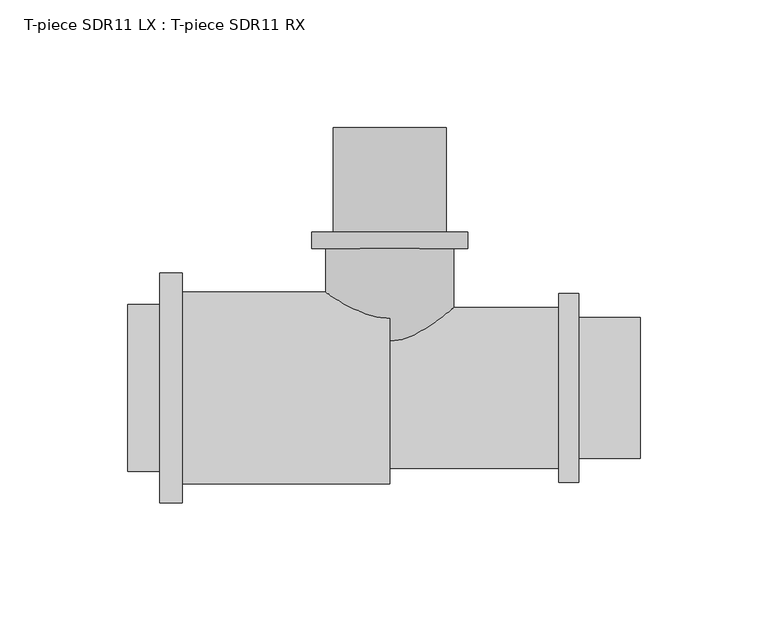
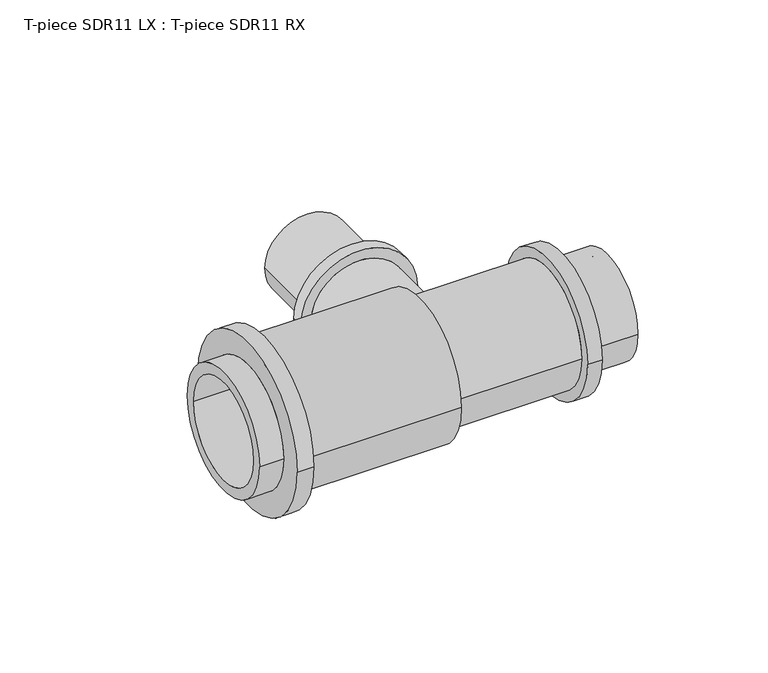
"""IFC4 building model written with IfcOpenShell, lengths in millimetres: pipe fitting geometry, T-piece SDR11 LX : T-piece SDR11 RX."""

from ifc_helpers import new_model, si_unit, point, frame, origin, place, context, project, spatial, polyline, circle_curve, ellipse_curve, trimmed, source, transform, mapped, element, save
from ifc_brep_helpers import plane_surface, cylinder_surface, revolved_surface, advanced_brep


def t_piece_sdr11_lx_t_piece_sdr11_rx_c902879b(model_context):
    return source(origin(), model_context, "Body", "AdvancedBrep", [
        advanced_brep(
        [(25.0, 2.0242854, 0.0), (-25.0, 2.0242854, 0.0), (-25.0, 54.6, 0.0), (25.0, 54.6, 0.0), (16.75, 101.7, 0.0), (-16.75, 101.7, 0.0), (-16.75, 0.0, 0.0), (16.75, 0.0, 0.0), (22.1, 60.9, 0.0), (-22.1, 60.9, 0.0), (-22.1, 101.7, 0.0), (22.1, 101.7, 0.0), (30.45, 54.6, 0.0), (-30.45, 54.6, 0.0), (-30.45, 60.9, 0.0), (30.45, 60.9, 0.0)],
        [
            (0, 1, circle_curve(frame((0.0, 2.0242854, 0.0), z_axis=(0.0, 1.0, 0.0), x_axis=(-1.0, 0.0, 0.0)), 25.0)),
            (1, 2),
            (2, 3, circle_curve(frame((0.0, 54.6, 0.0), z_axis=(0.0, -1.0, 0.0), x_axis=(-1.0, 0.0, 0.0)), 25.0)),
            (3, 0),
            (4, 5, circle_curve(frame((0.0, 101.7, 0.0), z_axis=(0.0, 1.0, 0.0), x_axis=(-1.0, 0.0, 0.0)), 16.75)),
            (5, 6),
            (6, 7, circle_curve(frame((0.0, 0.0, 0.0), z_axis=(0.0, -1.0, 0.0), x_axis=(-1.0, 0.0, 0.0)), 16.75)),
            (7, 4),
            (8, 9, circle_curve(frame((0.0, 60.9, 0.0), z_axis=(0.0, 1.0, 0.0), x_axis=(-1.0, 0.0, 0.0)), 22.1)),
            (9, 10),
            (10, 11, circle_curve(frame((0.0, 101.7, 0.0), z_axis=(0.0, -1.0, 0.0), x_axis=(-1.0, 0.0, 0.0)), 22.1)),
            (11, 8),
            (12, 13, circle_curve(frame((0.0, 54.6, 0.0), z_axis=(0.0, 1.0, 0.0), x_axis=(-1.0, 0.0, 0.0)), 30.45)),
            (13, 14),
            (14, 15, circle_curve(frame((0.0, 60.9, 0.0), z_axis=(0.0, -1.0, 0.0), x_axis=(-1.0, 0.0, 0.0)), 30.45)),
            (15, 12),
            (12, 13, circle_curve(frame((0.0, 54.6, 0.0), z_axis=(0.0, -1.0, 0.0), x_axis=(1.0, 0.0, 0.0)), 30.45)),
            (2, 3, circle_curve(frame((0.0, 54.6, 0.0), z_axis=(0.0, 1.0, 0.0), x_axis=(1.0, 0.0, 0.0)), 25.0)),
            (1, 0, circle_curve(frame((0.0, 2.0242854, 0.0), z_axis=(0.0, 1.0, 0.0), x_axis=(1.0, 0.0, 0.0)), 25.0)),
            (5, 4, circle_curve(frame((0.0, 101.7, 0.0), z_axis=(0.0, 1.0, 0.0), x_axis=(1.0, 0.0, 0.0)), 16.75)),
            (7, 6, circle_curve(frame((0.0, 0.0, 0.0), z_axis=(0.0, -1.0, 0.0), x_axis=(1.0, 0.0, 0.0)), 16.75)),
            (10, 11, circle_curve(frame((0.0, 101.7, 0.0), z_axis=(0.0, 1.0, 0.0), x_axis=(1.0, 0.0, 0.0)), 22.1)),
            (9, 8, circle_curve(frame((0.0, 60.9, 0.0), z_axis=(0.0, 1.0, 0.0), x_axis=(1.0, 0.0, 0.0)), 22.1)),
            (14, 15, circle_curve(frame((0.0, 60.9, 0.0), z_axis=(0.0, 1.0, 0.0), x_axis=(1.0, 0.0, 0.0)), 30.45)),
            (6, 1, circle_curve(frame((-11.9962802, 37.197475, 0.0), z_axis=(0.0, 0.0, -1.0), x_axis=(0.0, -1.0, 0.0)), 37.5)),
            (0, 7, circle_curve(frame((11.9962802, 37.197475, 0.0), z_axis=(0.0, 0.0, -1.0), x_axis=(0.0, -1.0, 0.0)), 37.5)),
        ],
        [
            cylinder_surface(frame((0.0, 0.0, 0.0), z_axis=(0.0, -1.0, 0.0), x_axis=(-1.0, 0.0, 0.0)), 25.0),
            revolved_surface(polyline([(-16.75, 0.0, 0.0), (-16.75, 101.7, 0.0)]), (0.0, 0.0, 0.0), (0.0, -1.0, 0.0)),
            cylinder_surface(frame((0.0, 0.0, 0.0), z_axis=(0.0, -1.0, 0.0), x_axis=(-1.0, 0.0, 0.0)), 22.1),
            cylinder_surface(frame((0.0, 0.0, 0.0), z_axis=(0.0, -1.0, 0.0), x_axis=(-1.0, 0.0, 0.0)), 30.45),
            plane_surface(frame((0.0, 54.6, 0.0), z_axis=(0.0, -1.0, 0.0), x_axis=(1.0, 0.0, 0.0))),
            cylinder_surface(frame((0.0, 0.0, 0.0), z_axis=(0.0, -1.0, 0.0), x_axis=(1.0, 0.0, 0.0)), 25.0),
            revolved_surface(polyline([(16.75, 0.0, 0.0), (16.75, 101.7, 0.0)]), (0.0, 0.0, 0.0), (0.0, -1.0, 0.0)),
            plane_surface(frame((0.0, 101.7, 0.0), z_axis=(0.0, 1.0, 0.0), x_axis=(1.0, 0.0, 0.0))),
            cylinder_surface(frame((0.0, 0.0, 0.0), z_axis=(0.0, -1.0, 0.0), x_axis=(1.0, 0.0, 0.0)), 22.1),
            plane_surface(frame((0.0, 60.9, 0.0), z_axis=(0.0, 1.0, 0.0), x_axis=(1.0, 0.0, 0.0))),
            cylinder_surface(frame((0.0, 0.0, 0.0), z_axis=(0.0, -1.0, 0.0), x_axis=(1.0, 0.0, 0.0)), 30.45),
            revolved_surface(trimmed(ellipse_curve(frame((-11.9962802, 37.197475, 0.0), z_axis=(0.0, 0.0, 1.0), x_axis=(0.0, -1.0, 0.0)), 37.5, 37.5), [point((-25.0, 2.0242854, 0.0))], [point((-16.75, 0.0, 0.0))], True, "CARTESIAN"), (0.0, 0.0, 0.0), (0.0, -1.0, 0.0)),
            revolved_surface(trimmed(ellipse_curve(frame((11.9962802, 37.197475, 0.0), z_axis=(0.0, 0.0, -1.0), x_axis=(0.0, -1.0, 0.0)), 37.5, 37.5), [point((25.0, 2.0242854, 0.0))], [point((16.75, 0.0, 0.0))], True, "CARTESIAN"), (0.0, 0.0, 0.0), (0.0, -1.0, 0.0)),
        ],
        [
            (0, [[1, 2, 3, 4]]),
            (1, [[5, 6, 7, 8]]),
            (2, [[9, 10, 11, 12]]),
            (3, [[13, 14, 15, 16]]),
            (4, [[17, -13], [18, -3]]),
            (5, [[19, -4, -18, -2]]),
            (6, [[20, -8, 21, -6]]),
            (7, [[22, -11], [-20, -5]]),
            (8, [[23, -12, -22, -10]]),
            (9, [[24, -15], [-23, -9]]),
            (10, [[-17, -16, -24, -14]]),
            (11, [[-7, 25, -1, 26]]),
            (12, [[-21, -26, -19, -25]]),
        ],
    ),
        advanced_brep(
        [(66.1, 31.5, 0.0), (66.1, -31.5, 0.0), (0.0, -31.5, 0.0), (0.0, 31.5, 0.0), (0.0, 22.4, 0.0), (0.0, -22.4, 0.0), (97.8, -22.4, 0.0), (97.8, 22.4, 0.0), (97.8, 27.5, 0.0), (97.8, -27.5, 0.0), (73.8, -27.5, 0.0), (73.8, 27.5, 0.0), (73.8, 36.9, 0.0), (73.8, -36.9, 0.0), (66.1, -36.9, 0.0), (66.1, 36.9, 0.0)],
        [
            (0, 1, circle_curve(frame((66.1, 0.0, 0.0), z_axis=(-1.0, 0.0, 0.0), x_axis=(0.0, -1.0, 0.0)), 31.5)),
            (1, 2),
            (2, 3, circle_curve(frame((0.0, 0.0, 0.0), z_axis=(1.0, 0.0, 0.0), x_axis=(0.0, -1.0, 0.0)), 31.5)),
            (3, 0),
            (4, 5, circle_curve(frame((0.0, 0.0, 0.0), z_axis=(-1.0, 0.0, 0.0), x_axis=(0.0, -1.0, 0.0)), 22.4)),
            (5, 6),
            (6, 7, circle_curve(frame((97.8, 0.0, 0.0), z_axis=(1.0, 0.0, 0.0), x_axis=(0.0, -1.0, 0.0)), 22.4)),
            (7, 4),
            (8, 9, circle_curve(frame((97.8, 0.0, 0.0), z_axis=(-1.0, 0.0, 0.0), x_axis=(0.0, -1.0, 0.0)), 27.5)),
            (9, 10),
            (10, 11, circle_curve(frame((73.8, 0.0, 0.0), z_axis=(1.0, 0.0, 0.0), x_axis=(0.0, -1.0, 0.0)), 27.5)),
            (11, 8),
            (12, 13, circle_curve(frame((73.8, 0.0, 0.0), z_axis=(-1.0, 0.0, 0.0), x_axis=(0.0, -1.0, 0.0)), 36.9)),
            (13, 14),
            (14, 15, circle_curve(frame((66.1, 0.0, 0.0), z_axis=(1.0, 0.0, 0.0), x_axis=(0.0, -1.0, 0.0)), 36.9)),
            (15, 12),
            (14, 15, circle_curve(frame((66.1, 0.0, 0.0), z_axis=(-1.0, 0.0, 0.0), x_axis=(0.0, 1.0, 0.0)), 36.9)),
            (0, 1, circle_curve(frame((66.1, 0.0, 0.0), z_axis=(1.0, 0.0, 0.0), x_axis=(0.0, 1.0, 0.0)), 31.5)),
            (3, 2, circle_curve(frame((0.0, 0.0, 0.0), z_axis=(1.0, 0.0, 0.0), x_axis=(0.0, 1.0, 0.0)), 31.5)),
            (4, 5, circle_curve(frame((0.0, 0.0, 0.0), z_axis=(1.0, 0.0, 0.0), x_axis=(0.0, 1.0, 0.0)), 22.4)),
            (7, 6, circle_curve(frame((97.8, 0.0, 0.0), z_axis=(1.0, 0.0, 0.0), x_axis=(0.0, 1.0, 0.0)), 22.4)),
            (8, 9, circle_curve(frame((97.8, 0.0, 0.0), z_axis=(1.0, 0.0, 0.0), x_axis=(0.0, 1.0, 0.0)), 27.5)),
            (11, 10, circle_curve(frame((73.8, 0.0, 0.0), z_axis=(1.0, 0.0, 0.0), x_axis=(0.0, 1.0, 0.0)), 27.5)),
            (12, 13, circle_curve(frame((73.8, 0.0, 0.0), z_axis=(1.0, 0.0, 0.0), x_axis=(0.0, 1.0, 0.0)), 36.9)),
        ],
        [
            cylinder_surface(frame((0.0, 0.0, 0.0), z_axis=(1.0, 0.0, 0.0), x_axis=(0.0, -1.0, 0.0)), 31.5),
            revolved_surface(polyline([(97.8, -22.4, 0.0), (0.0, -22.4, 0.0)]), (0.0, 0.0, 0.0), (1.0, 0.0, 0.0)),
            cylinder_surface(frame((0.0, 0.0, 0.0), z_axis=(1.0, 0.0, 0.0), x_axis=(0.0, -1.0, 0.0)), 27.5),
            cylinder_surface(frame((0.0, 0.0, 0.0), z_axis=(1.0, 0.0, 0.0), x_axis=(0.0, -1.0, 0.0)), 36.9),
            plane_surface(frame((66.1, 0.0, 0.0), z_axis=(-1.0, 0.0, 0.0), x_axis=(0.0, 1.0, 0.0))),
            cylinder_surface(frame((0.0, 0.0, 0.0), z_axis=(1.0, 0.0, 0.0), x_axis=(0.0, 1.0, 0.0)), 31.5),
            plane_surface(frame((0.0, 0.0, 0.0), z_axis=(-1.0, 0.0, 0.0), x_axis=(0.0, 1.0, 0.0))),
            revolved_surface(polyline([(97.8, 22.4, 0.0), (0.0, 22.4, 0.0)]), (0.0, 0.0, 0.0), (1.0, 0.0, 0.0)),
            plane_surface(frame((97.8, 0.0, 0.0), z_axis=(1.0, 0.0, 0.0), x_axis=(0.0, 1.0, 0.0))),
            cylinder_surface(frame((0.0, 0.0, 0.0), z_axis=(1.0, 0.0, 0.0), x_axis=(0.0, 1.0, 0.0)), 27.5),
            plane_surface(frame((73.8, 0.0, 0.0), z_axis=(1.0, 0.0, 0.0), x_axis=(0.0, 1.0, 0.0))),
            cylinder_surface(frame((0.0, 0.0, 0.0), z_axis=(1.0, 0.0, 0.0), x_axis=(0.0, 1.0, 0.0)), 36.9),
        ],
        [
            (0, [[1, 2, 3, 4]]),
            (1, [[5, 6, 7, 8]]),
            (2, [[9, 10, 11, 12]]),
            (3, [[13, 14, 15, 16]]),
            (4, [[17, -15], [18, -1]]),
            (5, [[-18, -4, 19, -2]]),
            (6, [[-19, -3], [20, -5]]),
            (7, [[-20, -8, 21, -6]]),
            (8, [[22, -9], [-21, -7]]),
            (9, [[-22, -12, 23, -10]]),
            (10, [[24, -13], [-23, -11]]),
            (11, [[-24, -16, -17, -14]]),
        ],
    ),
        advanced_brep(
        [(0.0, 37.5, 0.0), (0.0, -37.5, 0.0), (-81.1, -37.5, 0.0), (-81.1, 37.5, 0.0), (-102.3, 26.95, 0.0), (-102.3, -26.95, 0.0), (0.0, -26.95, 0.0), (0.0, 26.95, 0.0), (-89.8, 32.6, 0.0), (-89.8, -32.6, 0.0), (-102.3, -32.6, 0.0), (-102.3, 32.6, 0.0), (-81.1, 44.9, 0.0), (-81.1, -44.9, 0.0), (-89.8, -44.9, 0.0), (-89.8, 44.9, 0.0)],
        [
            (0, 1, circle_curve(frame((0.0, 0.0, 0.0), z_axis=(-1.0, 0.0, 0.0), x_axis=(0.0, -1.0, 0.0)), 37.5)),
            (1, 2),
            (2, 3, circle_curve(frame((-81.1, 0.0, 0.0), z_axis=(1.0, 0.0, 0.0), x_axis=(0.0, -1.0, 0.0)), 37.5)),
            (3, 0),
            (4, 5, circle_curve(frame((-102.3, 0.0, 0.0), z_axis=(-1.0, 0.0, 0.0), x_axis=(0.0, -1.0, 0.0)), 26.95)),
            (5, 6),
            (6, 7, circle_curve(frame((0.0, 0.0, 0.0), z_axis=(1.0, 0.0, 0.0), x_axis=(0.0, -1.0, 0.0)), 26.95)),
            (7, 4),
            (8, 9, circle_curve(frame((-89.8, 0.0, 0.0), z_axis=(-1.0, 0.0, 0.0), x_axis=(0.0, -1.0, 0.0)), 32.6)),
            (9, 10),
            (10, 11, circle_curve(frame((-102.3, 0.0, 0.0), z_axis=(1.0, 0.0, 0.0), x_axis=(0.0, -1.0, 0.0)), 32.6)),
            (11, 8),
            (12, 13, circle_curve(frame((-81.1, 0.0, 0.0), z_axis=(-1.0, 0.0, 0.0), x_axis=(0.0, -1.0, 0.0)), 44.9)),
            (13, 14),
            (14, 15, circle_curve(frame((-89.8, 0.0, 0.0), z_axis=(1.0, 0.0, 0.0), x_axis=(0.0, -1.0, 0.0)), 44.9)),
            (15, 12),
            (12, 13, circle_curve(frame((-81.1, 0.0, 0.0), z_axis=(1.0, 0.0, 0.0), x_axis=(0.0, 1.0, 0.0)), 44.9)),
            (2, 3, circle_curve(frame((-81.1, 0.0, 0.0), z_axis=(-1.0, 0.0, 0.0), x_axis=(0.0, 1.0, 0.0)), 37.5)),
            (1, 0, circle_curve(frame((0.0, 0.0, 0.0), z_axis=(-1.0, 0.0, 0.0), x_axis=(0.0, 1.0, 0.0)), 37.5)),
            (6, 7, circle_curve(frame((0.0, 0.0, 0.0), z_axis=(-1.0, 0.0, 0.0), x_axis=(0.0, 1.0, 0.0)), 26.95)),
            (5, 4, circle_curve(frame((-102.3, 0.0, 0.0), z_axis=(-1.0, 0.0, 0.0), x_axis=(0.0, 1.0, 0.0)), 26.95)),
            (10, 11, circle_curve(frame((-102.3, 0.0, 0.0), z_axis=(-1.0, 0.0, 0.0), x_axis=(0.0, 1.0, 0.0)), 32.6)),
            (9, 8, circle_curve(frame((-89.8, 0.0, 0.0), z_axis=(-1.0, 0.0, 0.0), x_axis=(0.0, 1.0, 0.0)), 32.6)),
            (14, 15, circle_curve(frame((-89.8, 0.0, 0.0), z_axis=(-1.0, 0.0, 0.0), x_axis=(0.0, 1.0, 0.0)), 44.9)),
        ],
        [
            cylinder_surface(frame((0.0, 0.0, 0.0), z_axis=(1.0, 0.0, 0.0), x_axis=(0.0, -1.0, 0.0)), 37.5),
            revolved_surface(polyline([(0.0, -26.95, 0.0), (-102.3, -26.95, 0.0)]), (0.0, 0.0, 0.0), (1.0, 0.0, 0.0)),
            cylinder_surface(frame((0.0, 0.0, 0.0), z_axis=(1.0, 0.0, 0.0), x_axis=(0.0, -1.0, 0.0)), 32.6),
            cylinder_surface(frame((0.0, 0.0, 0.0), z_axis=(1.0, 0.0, 0.0), x_axis=(0.0, -1.0, 0.0)), 44.9),
            plane_surface(frame((-81.1, 0.0, 0.0), z_axis=(1.0, 0.0, 0.0), x_axis=(0.0, 1.0, 0.0))),
            cylinder_surface(frame((0.0, 0.0, 0.0), z_axis=(1.0, 0.0, 0.0), x_axis=(0.0, 1.0, 0.0)), 37.5),
            plane_surface(frame((0.0, 0.0, 0.0), z_axis=(1.0, 0.0, 0.0), x_axis=(0.0, 1.0, 0.0))),
            revolved_surface(polyline([(0.0, 26.95, 0.0), (-102.3, 26.95, 0.0)]), (0.0, 0.0, 0.0), (1.0, 0.0, 0.0)),
            plane_surface(frame((-102.3, 0.0, 0.0), z_axis=(-1.0, 0.0, 0.0), x_axis=(0.0, 1.0, 0.0))),
            cylinder_surface(frame((0.0, 0.0, 0.0), z_axis=(1.0, 0.0, 0.0), x_axis=(0.0, 1.0, 0.0)), 32.6),
            plane_surface(frame((-89.8, 0.0, 0.0), z_axis=(-1.0, 0.0, 0.0), x_axis=(0.0, 1.0, 0.0))),
            cylinder_surface(frame((0.0, 0.0, 0.0), z_axis=(1.0, 0.0, 0.0), x_axis=(0.0, 1.0, 0.0)), 44.9),
        ],
        [
            (0, [[1, 2, 3, 4]]),
            (1, [[5, 6, 7, 8]]),
            (2, [[9, 10, 11, 12]]),
            (3, [[13, 14, 15, 16]]),
            (4, [[17, -13], [18, -3]]),
            (5, [[19, -4, -18, -2]]),
            (6, [[-19, -1], [20, -7]]),
            (7, [[21, -8, -20, -6]]),
            (8, [[22, -11], [-21, -5]]),
            (9, [[23, -12, -22, -10]]),
            (10, [[24, -15], [-23, -9]]),
            (11, [[-17, -16, -24, -14]]),
        ],
    ),
    ])


if __name__ == "__main__":
    model = new_model("IFC4")
    model_context = context("Model", 3, world=origin())
    ifc_project = project(units=[si_unit("LENGTHUNIT", "METRE", prefix="MILLI")], contexts=[model_context])
    site = spatial("IfcSite", under=ifc_project)
    building = spatial("IfcBuilding", under=site)
    placement = place(None, origin())
    t_piece_sdr11_lx_t_piece_sdr11_rx_shape = t_piece_sdr11_lx_t_piece_sdr11_rx_c902879b(model_context)
    element("IfcPipeFitting", 1, ObjectType="T-piece SDR11 LX : T-piece SDR11 RX", at=placement, inside=building, context=model_context, shape_type="MappedRepresentation", body=[
        mapped(t_piece_sdr11_lx_t_piece_sdr11_rx_shape, transform((0.0, 0.0, 0.0), x_axis=(1.0, 0.0, 0.0), y_axis=(0.0, 1.0, 0.0), z_axis=(0.0, 0.0, 1.0))),
    ])
    save(model, "model.ifc")
